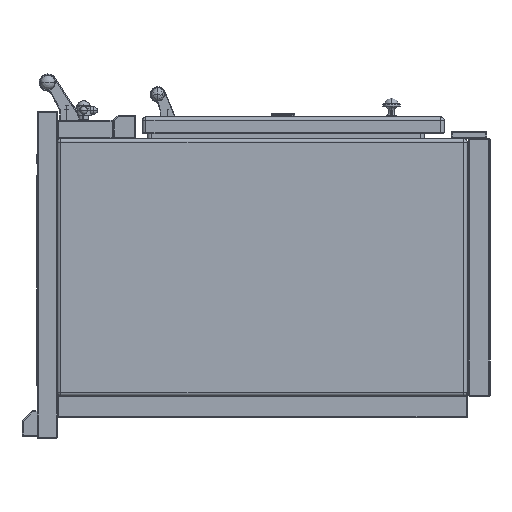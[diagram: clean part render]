
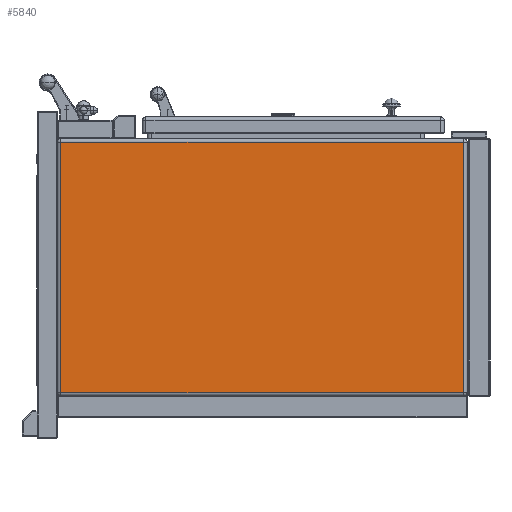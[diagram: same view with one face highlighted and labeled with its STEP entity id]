
A CAD part, left-side view. The second image highlights one B-rep face of the part: STEP entity #5840.
In plain terms, the highlighted planar face has unit normal (-1, 0, 0).
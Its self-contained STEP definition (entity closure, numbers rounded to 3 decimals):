
#1343=DIRECTION('',(0.,1.,0.));
#1344=VECTOR('',#1343,801.);
#1345=CARTESIAN_POINT('',(-900.,52.5,249.));
#1346=LINE('',#1345,#1344);
#1347=DIRECTION('',(0.,0.,1.));
#1348=VECTOR('',#1347,498.);
#1349=CARTESIAN_POINT('',(-900.,52.5,-249.));
#1350=LINE('',#1349,#1348);
#1351=DIRECTION('',(0.,-1.,0.));
#1352=VECTOR('',#1351,801.);
#1353=CARTESIAN_POINT('',(-900.,853.5,-249.));
#1354=LINE('',#1353,#1352);
#1355=DIRECTION('',(0.,0.,-1.));
#1356=VECTOR('',#1355,498.);
#1357=CARTESIAN_POINT('',(-900.,853.5,249.));
#1358=LINE('',#1357,#1356);
#3334=CARTESIAN_POINT('',(-900.,52.5,249.));
#3335=CARTESIAN_POINT('',(-900.,853.5,249.));
#3336=VERTEX_POINT('',#3334);
#3337=VERTEX_POINT('',#3335);
#3338=CARTESIAN_POINT('',(-900.,52.5,-249.));
#3339=VERTEX_POINT('',#3338);
#3362=CARTESIAN_POINT('',(-900.,853.5,-249.));
#3363=VERTEX_POINT('',#3362);
#5826=CARTESIAN_POINT('',(-900.,0.,0.));
#5827=DIRECTION('',(1.,0.,0.));
#5828=DIRECTION('',(0.,0.,-1.));
#5829=AXIS2_PLACEMENT_3D('',#5826,#5827,#5828);
#5830=PLANE('',#5829);
#5832=ORIENTED_EDGE('',*,*,#5831,.F.);
#5834=ORIENTED_EDGE('',*,*,#5833,.F.);
#5835=ORIENTED_EDGE('',*,*,#5817,.F.);
#5837=ORIENTED_EDGE('',*,*,#5836,.F.);
#5838=EDGE_LOOP('',(#5832,#5834,#5835,#5837));
#5839=FACE_OUTER_BOUND('',#5838,.F.);
#5817=EDGE_CURVE('',#3363,#3339,#1354,.T.);
#5831=EDGE_CURVE('',#3336,#3337,#1346,.T.);
#5833=EDGE_CURVE('',#3339,#3336,#1350,.T.);
#5836=EDGE_CURVE('',#3337,#3363,#1358,.T.);
#5840=ADVANCED_FACE('',(#5839),#5830,.F.);
